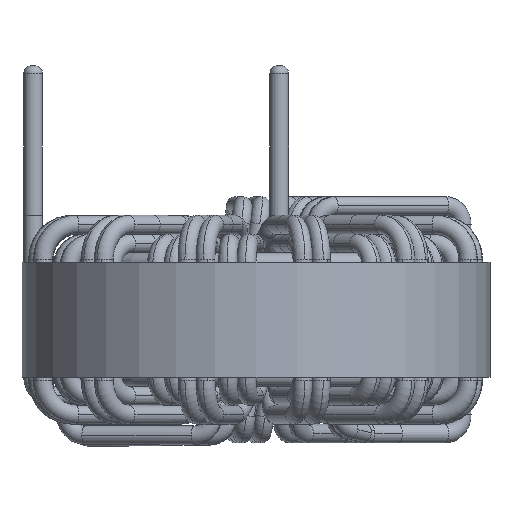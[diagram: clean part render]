
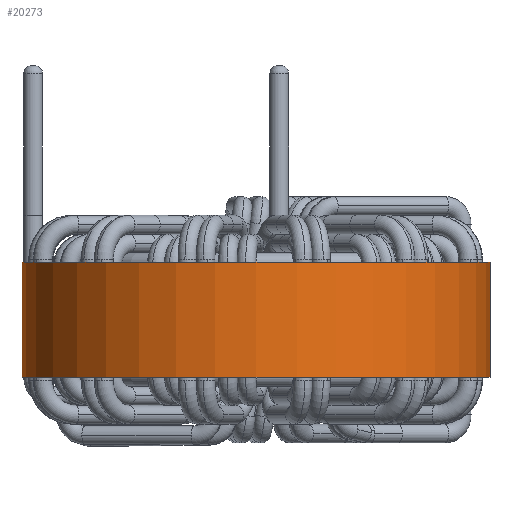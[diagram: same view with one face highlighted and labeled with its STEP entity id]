
A CAD part, front view. The second image highlights one B-rep face of the part: STEP entity #20273.
In plain terms, the highlighted cylindrical face has radius 20.31 mm (diameter 40.62 mm), a partial arc.
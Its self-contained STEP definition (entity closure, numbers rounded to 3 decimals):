
#558 = VECTOR ( 'NONE', #30655, 1000. ) ;
#2354 = DIRECTION ( 'NONE',  ( -1., 0., 0. ) ) ;
#4418 = EDGE_CURVE ( 'NONE', #41859, #22631, #66824, .T. ) ;
#4889 = EDGE_CURVE ( 'NONE', #65201, #63951, #43552, .T. ) ;
#8726 = AXIS2_PLACEMENT_3D ( 'NONE', #48538, #53621, #11244 ) ;
#9410 = CARTESIAN_POINT ( 'NONE',  ( 20.31, 0., 5. ) ) ;
#11244 = DIRECTION ( 'NONE',  ( 1., 0., 0. ) ) ;
#14655 = CARTESIAN_POINT ( 'NONE',  ( 0., 0., 5. ) ) ;
#15948 = AXIS2_PLACEMENT_3D ( 'NONE', #14655, #30594, #56996 ) ;
#20273 = ADVANCED_FACE ( 'NONE', ( #59626 ), #43168, .T. ) ;
#21565 = CARTESIAN_POINT ( 'NONE',  ( -20.31, 0., -5. ) ) ;
#22631 = VERTEX_POINT ( 'NONE', #21565 ) ;
#24637 = EDGE_LOOP ( 'NONE', ( #67999, #67971, #46004, #61470 ) ) ;
#26939 = VECTOR ( 'NONE', #51586, 1000. ) ;
#28732 = CIRCLE ( 'NONE', #15948, 20.31 ) ;
#28778 = DIRECTION ( 'NONE',  ( 0., 0., -1. ) ) ;
#30594 = DIRECTION ( 'NONE',  ( 0., 0., 1. ) ) ;
#30655 = DIRECTION ( 'NONE',  ( 0., 0., -1. ) ) ;
#31699 = EDGE_CURVE ( 'NONE', #41859, #65201, #28732, .T. ) ;
#34948 = AXIS2_PLACEMENT_3D ( 'NONE', #45067, #28778, #2354 ) ;
#36045 = EDGE_CURVE ( 'NONE', #22631, #63951, #42973, .T. ) ;
#40651 = CARTESIAN_POINT ( 'NONE',  ( 20.31, 0., 5. ) ) ;
#41859 = VERTEX_POINT ( 'NONE', #53110 ) ;
#42973 = CIRCLE ( 'NONE', #8726, 20.31 ) ;
#43168 = CYLINDRICAL_SURFACE ( 'NONE', #34948, 20.31 ) ;
#43552 = LINE ( 'NONE', #9410, #26939 ) ;
#44795 = CARTESIAN_POINT ( 'NONE',  ( 20.31, 0., -5. ) ) ;
#45067 = CARTESIAN_POINT ( 'NONE',  ( 0., 0., 5. ) ) ;
#46004 = ORIENTED_EDGE ( 'NONE', *, *, #4418, .T. ) ;
#48538 = CARTESIAN_POINT ( 'NONE',  ( 0., 0., -5. ) ) ;
#51586 = DIRECTION ( 'NONE',  ( 0., 0., -1. ) ) ;
#53110 = CARTESIAN_POINT ( 'NONE',  ( -20.31, 0., 5. ) ) ;
#53621 = DIRECTION ( 'NONE',  ( 0., 0., 1. ) ) ;
#56996 = DIRECTION ( 'NONE',  ( 1., 0., 0. ) ) ;
#59626 = FACE_OUTER_BOUND ( 'NONE', #24637, .T. ) ;
#61470 = ORIENTED_EDGE ( 'NONE', *, *, #36045, .T. ) ;
#63951 = VERTEX_POINT ( 'NONE', #44795 ) ;
#65201 = VERTEX_POINT ( 'NONE', #40651 ) ;
#66824 = LINE ( 'NONE', #67873, #558 ) ;
#67873 = CARTESIAN_POINT ( 'NONE',  ( -20.31, 0., 5. ) ) ;
#67971 = ORIENTED_EDGE ( 'NONE', *, *, #31699, .F. ) ;
#67999 = ORIENTED_EDGE ( 'NONE', *, *, #4889, .F. ) ;
